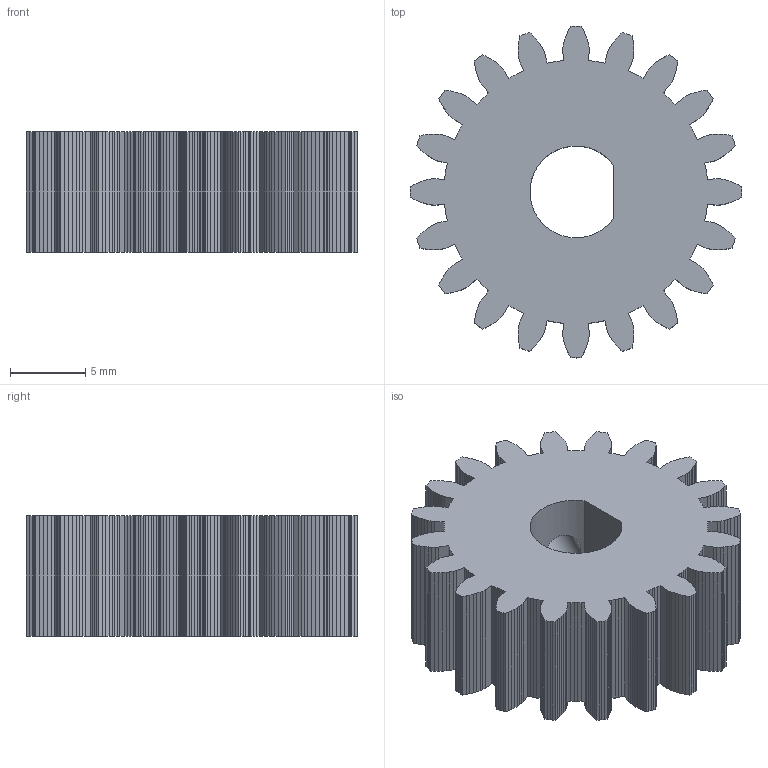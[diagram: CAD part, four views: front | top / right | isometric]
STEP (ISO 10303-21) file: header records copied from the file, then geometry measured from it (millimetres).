
FILE_DESCRIPTION(('Open CASCADE Model'),'2;1');
FILE_NAME('Open CASCADE Shape Model','2026-10-16T05:11:25',('Author'),( 'Open CASCADE'),'Open CASCADE STEP processor 7.9','Open CASCADE 7.9' ,'Unknown');
FILE_SCHEMA(('AUTOMOTIVE_DESIGN { 1 0 10303 214 1 1 1 1 }'));
Length unit declared in the file: millimetre
Products named in the file (1): Open CASCADE STEP translator 7.9 12
Bounding box: 22 x 22 x 8 mm (x, y, z)
Volume: 2196.8 mm3; surface area: 1800.2 mm2
Topology: 1 solids, 1 shells, 524 faces, 1569 edges, 1046 vertices
Faces by surface type: plane 522, cylinder 2
Full cylindrical faces by diameter (mm): 2.5 x1
Entity records: 38122 total; most frequent: CARTESIAN_POINT 6759, DIRECTION 5756, LINE 4579, VECTOR 4579, ORIENTED_EDGE 3138, PCURVE 3138, DEFINITIONAL_REPRESENTATION 3138, EDGE_CURVE 1569
